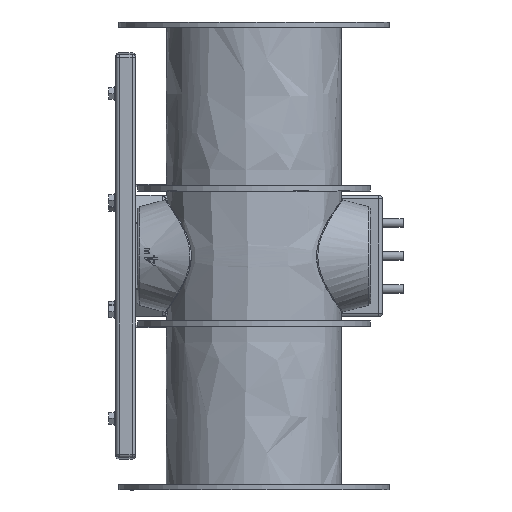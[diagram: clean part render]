
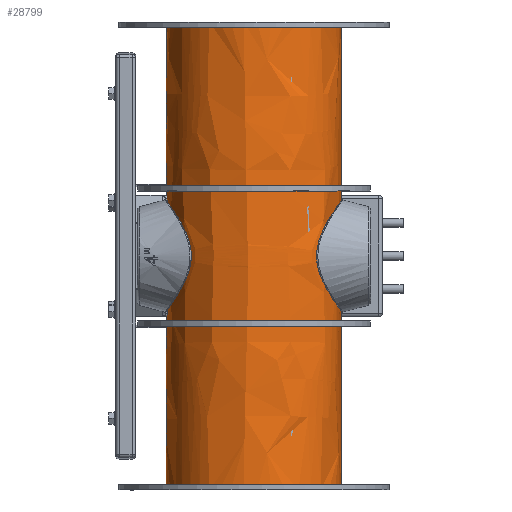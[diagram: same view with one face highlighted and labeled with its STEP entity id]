
A CAD part, front view. The second image highlights one B-rep face of the part: STEP entity #28799.
In plain terms, the highlighted free-form (B-spline) face has degree [2, 1] with [7, 2] control points.
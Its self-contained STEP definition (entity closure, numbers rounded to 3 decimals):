
#28635=CARTESIAN_POINT('',(50.55,0.,-135.));
#28636=VERTEX_POINT('',#28635);
#28637=CARTESIAN_POINT('',(50.55,0.,-135.));
#28638=CARTESIAN_POINT('',(50.55,87.555,-135.));
#28639=CARTESIAN_POINT('',(-25.275,43.778,-135.));
#28640=CARTESIAN_POINT('',(-101.1,0.,-135.));
#28641=CARTESIAN_POINT('',(-25.275,-43.778,-135.));
#28642=CARTESIAN_POINT('',(50.55,-87.555,-135.));
#28643=CARTESIAN_POINT('',(50.55,0.,-135.));
#28644=(BOUNDED_CURVE()B_SPLINE_CURVE(2,(#28637,#28638,#28639,#28640,#28641,#28642,#28643),.CIRCULAR_ARC.,.T.,.U.)B_SPLINE_CURVE_WITH_KNOTS((3,2,2,3),(0.,0.333,0.667,1.),.UNSPECIFIED.)CURVE()GEOMETRIC_REPRESENTATION_ITEM()RATIONAL_B_SPLINE_CURVE((1.,0.5,1.,0.5,1.,0.5,1.))REPRESENTATION_ITEM(''));
#28645=EDGE_CURVE('',#28636,#28636,#28644,.T.);
#28669=CARTESIAN_POINT('',(50.55,0.,135.));
#28670=VERTEX_POINT('',#28669);
#28671=CARTESIAN_POINT('',(50.55,0.,135.));
#28672=CARTESIAN_POINT('',(50.55,87.555,135.));
#28673=CARTESIAN_POINT('',(-25.275,43.778,135.));
#28674=CARTESIAN_POINT('',(-101.1,0.,135.));
#28675=CARTESIAN_POINT('',(-25.275,-43.778,135.));
#28676=CARTESIAN_POINT('',(50.55,-87.555,135.));
#28677=CARTESIAN_POINT('',(50.55,0.,135.));
#28678=(BOUNDED_CURVE()B_SPLINE_CURVE(2,(#28671,#28672,#28673,#28674,#28675,#28676,#28677),.CIRCULAR_ARC.,.T.,.U.)B_SPLINE_CURVE_WITH_KNOTS((3,2,2,3),(0.,0.333,0.667,1.),.UNSPECIFIED.)CURVE()GEOMETRIC_REPRESENTATION_ITEM()RATIONAL_B_SPLINE_CURVE((1.,0.5,1.,0.5,1.,0.5,1.))REPRESENTATION_ITEM(''));
#28679=EDGE_CURVE('',#28670,#28670,#28678,.T.);
#28698=CARTESIAN_POINT('',(50.55,0.,-135.));
#28699=CARTESIAN_POINT('',(50.55,0.,135.));
#28700=CARTESIAN_POINT('',(50.55,87.555,-135.));
#28701=CARTESIAN_POINT('',(50.55,87.555,135.));
#28702=CARTESIAN_POINT('',(-25.275,43.778,-135.));
#28703=CARTESIAN_POINT('',(-25.275,43.778,135.));
#28704=CARTESIAN_POINT('',(-101.1,0.,-135.));
#28705=CARTESIAN_POINT('',(-101.1,0.,135.));
#28706=CARTESIAN_POINT('',(-25.275,-43.778,-135.));
#28707=CARTESIAN_POINT('',(-25.275,-43.778,135.));
#28708=CARTESIAN_POINT('',(50.55,-87.555,-135.));
#28709=CARTESIAN_POINT('',(50.55,-87.555,135.));
#28710=CARTESIAN_POINT('',(50.55,0.,-135.));
#28711=CARTESIAN_POINT('',(50.55,0.,135.));
#28712=(BOUNDED_SURFACE()B_SPLINE_SURFACE(2,1,((#28698,#28699),(#28700,#28701),(#28702,#28703),(#28704,#28705),(#28706,#28707),(#28708,#28709),(#28710,#28711)),.CYLINDRICAL_SURF.,.T.,.F.,.U.)B_SPLINE_SURFACE_WITH_KNOTS((3,2,2,3),(2,2),(0.,0.333,0.667,1.),(0.,1.),.UNSPECIFIED.)GEOMETRIC_REPRESENTATION_ITEM()RATIONAL_B_SPLINE_SURFACE(((1.,1.),(0.5,0.5),(1.,1.),(0.5,0.5),(1.,1.),(0.5,0.5),(1.,1.)))REPRESENTATION_ITEM('')SURFACE());
#28713=ORIENTED_EDGE('',*,*,#28645,.T.);
#28714=CARTESIAN_POINT('',(50.55,0.,-12.5));
#28715=VERTEX_POINT('',#28714);
#28716=CARTESIAN_POINT('',(50.55,0.,-135.));
#28717=CARTESIAN_POINT('',(50.55,0.,-12.5));
#28718=B_SPLINE_CURVE_WITH_KNOTS('',1,(#28716,#28717),.POLYLINE_FORM.,.F.,.U.,(2,2),(0.,0.454),.UNSPECIFIED.);
#28719=EDGE_CURVE('',#28636,#28715,#28718,.T.);
#28720=ORIENTED_EDGE('',*,*,#28719,.T.);
#28721=CARTESIAN_POINT('',(50.55,0.,12.5));
#28722=VERTEX_POINT('',#28721);
#28723=CARTESIAN_POINT('',(50.55,0.,12.5));
#28724=CARTESIAN_POINT('',(50.55,-0.918,12.5));
#28725=CARTESIAN_POINT('',(50.525,-1.832,12.399));
#28726=CARTESIAN_POINT('',(50.298,-6.024,11.462));
#28727=CARTESIAN_POINT('',(49.798,-8.87,9.426));
#28728=CARTESIAN_POINT('',(49.119,-12.025,4.318));
#28729=CARTESIAN_POINT('',(48.937,-12.671,1.674));
#28730=CARTESIAN_POINT('',(49.057,-12.196,-4.342));
#28731=CARTESIAN_POINT('',(49.496,-10.59,-7.433));
#28732=CARTESIAN_POINT('',(50.269,-5.786,-11.461));
#28733=CARTESIAN_POINT('',(50.55,-2.944,-12.5));
#28734=CARTESIAN_POINT('',(50.55,0.,-12.5));
#28735=B_SPLINE_CURVE_WITH_KNOTS('',3,(#28723,#28724,#28725,#28726,#28727,#28728,#28729,#28730,#28731,#28732,#28733,#28734),.UNSPECIFIED.,.F.,.U.,(4,2,2,2,2,4),(0.,0.31,1.453,2.354,3.493,4.493),.UNSPECIFIED.);
#28736=EDGE_CURVE('',#28722,#28715,#28735,.T.);
#28737=ORIENTED_EDGE('',*,*,#28736,.F.);
#28738=CARTESIAN_POINT('',(50.55,0.,12.5));
#28739=CARTESIAN_POINT('',(50.55,0.,135.));
#28740=B_SPLINE_CURVE_WITH_KNOTS('',1,(#28738,#28739),.POLYLINE_FORM.,.F.,.U.,(2,2),(0.546,1.),.UNSPECIFIED.);
#28741=EDGE_CURVE('',#28722,#28670,#28740,.T.);
#28742=ORIENTED_EDGE('',*,*,#28741,.T.);
#28743=ORIENTED_EDGE('',*,*,#28679,.F.);
#28744=ORIENTED_EDGE('',*,*,#28741,.F.);
#28745=CARTESIAN_POINT('',(48.98,12.5,0.));
#28746=VERTEX_POINT('',#28745);
#28747=CARTESIAN_POINT('',(48.98,12.5,0.));
#28748=CARTESIAN_POINT('',(48.98,12.5,0.246));
#28749=CARTESIAN_POINT('',(48.985,12.481,0.738));
#28750=CARTESIAN_POINT('',(49.057,12.196,4.342));
#28751=CARTESIAN_POINT('',(49.496,10.59,7.433));
#28752=CARTESIAN_POINT('',(50.269,5.79,11.458));
#28753=CARTESIAN_POINT('',(50.55,2.95,12.5));
#28754=CARTESIAN_POINT('',(50.55,0.,12.5));
#28755=B_SPLINE_CURVE_WITH_KNOTS('',3,(#28747,#28748,#28749,#28750,#28751,#28752,#28753,#28754),.UNSPECIFIED.,.F.,.U.,(4,2,2,4),(0.,0.083,1.224,2.224),.UNSPECIFIED.);
#28756=EDGE_CURVE('',#28746,#28722,#28755,.T.);
#28757=ORIENTED_EDGE('',*,*,#28756,.F.);
#28758=CARTESIAN_POINT('',(50.55,0.,-12.5));
#28759=CARTESIAN_POINT('',(50.55,0.587,-12.5));
#28760=CARTESIAN_POINT('',(50.54,1.174,-12.459));
#28761=CARTESIAN_POINT('',(50.415,4.758,-11.95));
#28762=CARTESIAN_POINT('',(50.032,7.488,-10.451));
#28763=CARTESIAN_POINT('',(49.286,11.41,-5.915));
#28764=CARTESIAN_POINT('',(48.98,12.5,-3.017));
#28765=CARTESIAN_POINT('',(48.98,12.5,0.));
#28766=B_SPLINE_CURVE_WITH_KNOTS('',3,(#28758,#28759,#28760,#28761,#28762,#28763,#28764,#28765),.UNSPECIFIED.,.F.,.U.,(4,2,2,4),(0.,0.195,1.201,2.201),.UNSPECIFIED.);
#28767=EDGE_CURVE('',#28715,#28746,#28766,.T.);
#28768=ORIENTED_EDGE('',*,*,#28767,.F.);
#28769=ORIENTED_EDGE('',*,*,#28719,.F.);
#28770=EDGE_LOOP('',(#28713,#28720,#28737,#28742,#28743,#28744,#28757,#28768,#28769));
#28771=FACE_OUTER_BOUND('',#28770,.T.);
#28772=CARTESIAN_POINT('',(-48.98,12.5,0.));
#28773=VERTEX_POINT('',#28772);
#28774=CARTESIAN_POINT('',(-48.98,12.5,0.));
#28775=CARTESIAN_POINT('',(-48.98,12.5,-0.917));
#28776=CARTESIAN_POINT('',(-49.006,12.399,-1.831));
#28777=CARTESIAN_POINT('',(-49.258,11.388,-6.358));
#28778=CARTESIAN_POINT('',(-49.852,9.003,-9.43));
#28779=CARTESIAN_POINT('',(-50.522,3.109,-12.454));
#28780=CARTESIAN_POINT('',(-50.631,0.125,-12.837));
#28781=CARTESIAN_POINT('',(-50.28,-6.362,-11.386));
#28782=CARTESIAN_POINT('',(-49.692,-9.432,-9.));
#28783=CARTESIAN_POINT('',(-49.028,-12.378,-3.256));
#28784=CARTESIAN_POINT('',(-48.907,-12.792,-0.46));
#28785=CARTESIAN_POINT('',(-49.2,-11.624,5.916));
#28786=CARTESIAN_POINT('',(-49.782,-9.359,9.075));
#28787=CARTESIAN_POINT('',(-50.475,-3.689,12.268));
#28788=CARTESIAN_POINT('',(-50.62,-0.846,12.786));
#28789=CARTESIAN_POINT('',(-50.398,4.929,11.879));
#28790=CARTESIAN_POINT('',(-50.009,7.632,10.344));
#28791=CARTESIAN_POINT('',(-49.273,11.452,5.805));
#28792=CARTESIAN_POINT('',(-48.98,12.5,2.958));
#28793=CARTESIAN_POINT('',(-48.98,12.5,0.));
#28794=B_SPLINE_CURVE_WITH_KNOTS('',3,(#28774,#28775,#28776,#28777,#28778,#28779,#28780,#28781,#28782,#28783,#28784,#28785,#28786,#28787,#28788,#28789,#28790,#28791,#28792,#28793),.UNSPECIFIED.,.T.,.U.,(4,2,2,2,2,2,2,2,2,4),(0.,0.307,1.557,2.542,3.796,4.728,5.986,6.94,7.963,8.963),.UNSPECIFIED.);
#28795=EDGE_CURVE('',#28773,#28773,#28794,.T.);
#28796=ORIENTED_EDGE('',*,*,#28795,.F.);
#28797=EDGE_LOOP('',(#28796));
#28798=FACE_BOUND('',#28797,.T.);
#28799=ADVANCED_FACE('',(#28771,#28798),#28712,.T.);
